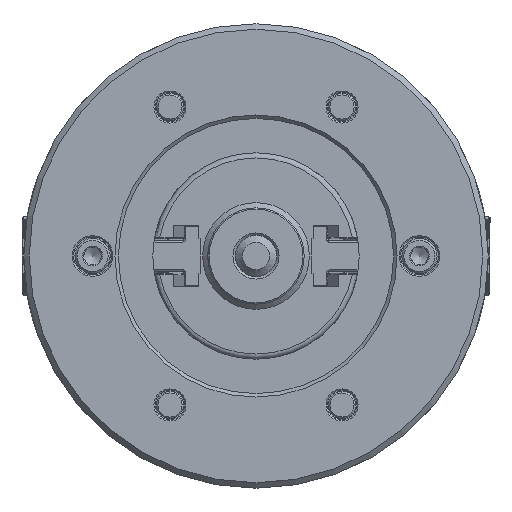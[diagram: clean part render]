
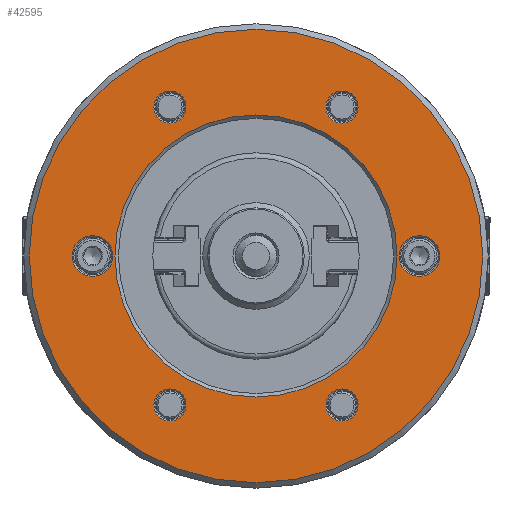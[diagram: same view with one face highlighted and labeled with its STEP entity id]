
A CAD part, left-side view. The second image highlights one B-rep face of the part: STEP entity #42595.
In plain terms, the highlighted planar face has unit normal (-1, 0, 0).
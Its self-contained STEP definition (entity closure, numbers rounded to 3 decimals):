
#477 = DIRECTION ( 'NONE',  ( 1., 0., 0. ) ) ;
#1529 = FACE_BOUND ( 'NONE', #49178, .T. ) ;
#1843 = CIRCLE ( 'NONE', #44696, 4.65 ) ;
#4095 = ORIENTED_EDGE ( 'NONE', *, *, #41263, .F. ) ;
#4787 = AXIS2_PLACEMENT_3D ( 'NONE', #64112, #13070, #70096 ) ;
#5414 = EDGE_LOOP ( 'NONE', ( #4095 ) ) ;
#6008 = ORIENTED_EDGE ( 'NONE', *, *, #45671, .T. ) ;
#6404 = DIRECTION ( 'NONE',  ( 1., 0., 0. ) ) ;
#7430 = DIRECTION ( 'NONE',  ( 1., 0., 0. ) ) ;
#7939 = CIRCLE ( 'NONE', #65114, 5.9 ) ;
#8080 = ORIENTED_EDGE ( 'NONE', *, *, #8855, .F. ) ;
#8652 = AXIS2_PLACEMENT_3D ( 'NONE', #21841, #22930, #57186 ) ;
#8855 = EDGE_CURVE ( 'NONE', #39638, #39638, #7939, .T. ) ;
#9085 = DIRECTION ( 'NONE',  ( 1., 0., 0. ) ) ;
#10974 = ORIENTED_EDGE ( 'NONE', *, *, #20569, .T. ) ;
#11229 = CARTESIAN_POINT ( 'NONE',  ( -55., 47.5, 0. ) ) ;
#11645 = DIRECTION ( 'NONE',  ( 0., 0., -1. ) ) ;
#13070 = DIRECTION ( 'NONE',  ( 1., 0., 0. ) ) ;
#13082 = EDGE_LOOP ( 'NONE', ( #26945 ) ) ;
#13475 = EDGE_LOOP ( 'NONE', ( #40920 ) ) ;
#15892 = AXIS2_PLACEMENT_3D ( 'NONE', #25346, #7430, #35753 ) ;
#16091 = CARTESIAN_POINT ( 'NONE',  ( -55., 0., -41. ) ) ;
#16450 = CARTESIAN_POINT ( 'NONE',  ( -55., 0., -65.9 ) ) ;
#16669 = DIRECTION ( 'NONE',  ( 0., 0., -1. ) ) ;
#17771 = CARTESIAN_POINT ( 'NONE',  ( -55., 25., 43.301 ) ) ;
#19440 = CIRCLE ( 'NONE', #64648, 4.65 ) ;
#20569 = EDGE_CURVE ( 'NONE', #41434, #41434, #34541, .T. ) ;
#20770 = DIRECTION ( 'NONE',  ( 1., 0., 0. ) ) ;
#20938 = CARTESIAN_POINT ( 'NONE',  ( -55., -25., -47.951 ) ) ;
#21841 = CARTESIAN_POINT ( 'NONE',  ( -55., -47.5, 0. ) ) ;
#21915 = ORIENTED_EDGE ( 'NONE', *, *, #33362, .T. ) ;
#22930 = DIRECTION ( 'NONE',  ( -1., 0., 0. ) ) ;
#24266 = FACE_OUTER_BOUND ( 'NONE', #13082, .T. ) ;
#25346 = CARTESIAN_POINT ( 'NONE',  ( -55., 0., 0. ) ) ;
#25373 = FACE_BOUND ( 'NONE', #5414, .T. ) ;
#25799 = VERTEX_POINT ( 'NONE', #65301 ) ;
#26154 = VERTEX_POINT ( 'NONE', #20938 ) ;
#26945 = ORIENTED_EDGE ( 'NONE', *, *, #59534, .F. ) ;
#27729 = CARTESIAN_POINT ( 'NONE',  ( -55., 47.5, 5.9 ) ) ;
#30288 = AXIS2_PLACEMENT_3D ( 'NONE', #47024, #6404, #62701 ) ;
#30300 = CARTESIAN_POINT ( 'NONE',  ( -55., 25., -47.951 ) ) ;
#30565 = VERTEX_POINT ( 'NONE', #35031 ) ;
#32471 = VERTEX_POINT ( 'NONE', #55194 ) ;
#33362 = EDGE_CURVE ( 'NONE', #25799, #25799, #19440, .T. ) ;
#34204 = AXIS2_PLACEMENT_3D ( 'NONE', #47016, #477, #11645 ) ;
#34541 = CIRCLE ( 'NONE', #72619, 4.65 ) ;
#35031 = CARTESIAN_POINT ( 'NONE',  ( -55., 25., 38.651 ) ) ;
#35753 = DIRECTION ( 'NONE',  ( 0., 0., -1. ) ) ;
#36383 = EDGE_LOOP ( 'NONE', ( #10974 ) ) ;
#38013 = EDGE_LOOP ( 'NONE', ( #62303 ) ) ;
#38519 = DIRECTION ( 'NONE',  ( 0., 0., -1. ) ) ;
#38531 = EDGE_CURVE ( 'NONE', #26154, #26154, #48488, .T. ) ;
#38602 = CIRCLE ( 'NONE', #30288, 65.9 ) ;
#38616 = DIRECTION ( 'NONE',  ( 0., 0., -1. ) ) ;
#38798 = VERTEX_POINT ( 'NONE', #16091 ) ;
#39638 = VERTEX_POINT ( 'NONE', #27729 ) ;
#40796 = CIRCLE ( 'NONE', #8652, 5.9 ) ;
#40920 = ORIENTED_EDGE ( 'NONE', *, *, #62939, .T. ) ;
#41263 = EDGE_CURVE ( 'NONE', #32471, #32471, #40796, .T. ) ;
#41376 = PLANE ( 'NONE',  #4787 ) ;
#41434 = VERTEX_POINT ( 'NONE', #30300 ) ;
#42595 = ADVANCED_FACE ( 'NONE', ( #25373, #54042, #52566, #53669, #48073, #1529, #24266, #69735 ), #41376, .F. ) ;
#44593 = DIRECTION ( 'NONE',  ( 1., 0., 0. ) ) ;
#44696 = AXIS2_PLACEMENT_3D ( 'NONE', #17771, #44593, #16669 ) ;
#45671 = EDGE_CURVE ( 'NONE', #38798, #38798, #68239, .T. ) ;
#47016 = CARTESIAN_POINT ( 'NONE',  ( -55., -25., -43.301 ) ) ;
#47024 = CARTESIAN_POINT ( 'NONE',  ( -55., 0., 0. ) ) ;
#48073 = FACE_BOUND ( 'NONE', #38013, .T. ) ;
#48488 = CIRCLE ( 'NONE', #34204, 4.65 ) ;
#49178 = EDGE_LOOP ( 'NONE', ( #21915 ) ) ;
#49321 = CARTESIAN_POINT ( 'NONE',  ( -55., -25., 43.301 ) ) ;
#52566 = FACE_BOUND ( 'NONE', #13475, .T. ) ;
#53669 = FACE_BOUND ( 'NONE', #72108, .T. ) ;
#54042 = FACE_BOUND ( 'NONE', #36383, .T. ) ;
#54156 = EDGE_LOOP ( 'NONE', ( #6008 ) ) ;
#55194 = CARTESIAN_POINT ( 'NONE',  ( -55., -47.5, 5.9 ) ) ;
#56685 = DIRECTION ( 'NONE',  ( -1., 0., 0. ) ) ;
#57186 = DIRECTION ( 'NONE',  ( 0., 0., 1. ) ) ;
#57415 = DIRECTION ( 'NONE',  ( 0., 0., 1. ) ) ;
#59534 = EDGE_CURVE ( 'NONE', #67508, #67508, #38602, .T. ) ;
#62303 = ORIENTED_EDGE ( 'NONE', *, *, #38531, .T. ) ;
#62701 = DIRECTION ( 'NONE',  ( 0., 0., -1. ) ) ;
#62939 = EDGE_CURVE ( 'NONE', #30565, #30565, #1843, .T. ) ;
#64112 = CARTESIAN_POINT ( 'NONE',  ( -55., -65.9, 0. ) ) ;
#64648 = AXIS2_PLACEMENT_3D ( 'NONE', #49321, #9085, #38519 ) ;
#65114 = AXIS2_PLACEMENT_3D ( 'NONE', #11229, #56685, #57415 ) ;
#65301 = CARTESIAN_POINT ( 'NONE',  ( -55., -25., 38.651 ) ) ;
#66580 = CARTESIAN_POINT ( 'NONE',  ( -55., 25., -43.301 ) ) ;
#67508 = VERTEX_POINT ( 'NONE', #16450 ) ;
#68239 = CIRCLE ( 'NONE', #15892, 41. ) ;
#69735 = FACE_BOUND ( 'NONE', #54156, .T. ) ;
#70096 = DIRECTION ( 'NONE',  ( 0., 0., -1. ) ) ;
#72108 = EDGE_LOOP ( 'NONE', ( #8080 ) ) ;
#72619 = AXIS2_PLACEMENT_3D ( 'NONE', #66580, #20770, #38616 ) ;
